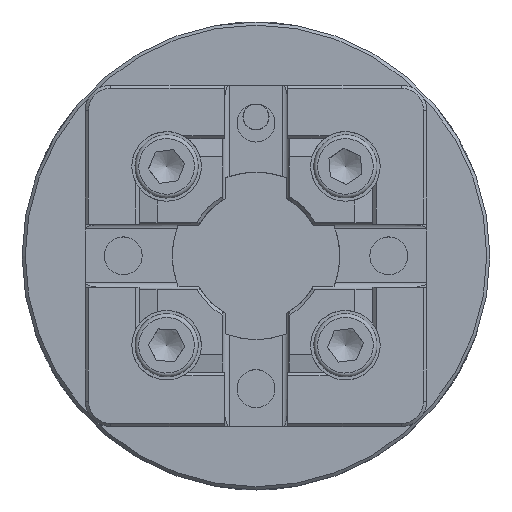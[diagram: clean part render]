
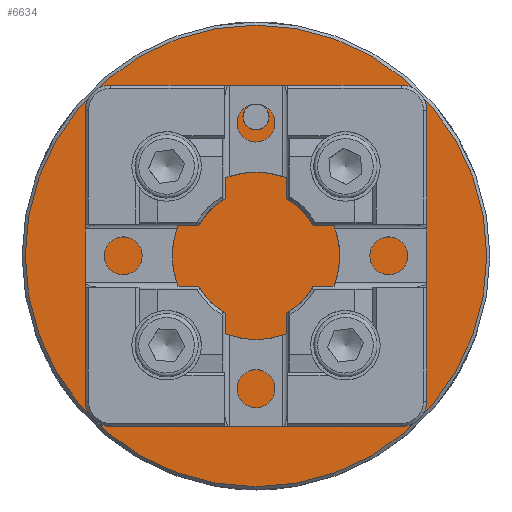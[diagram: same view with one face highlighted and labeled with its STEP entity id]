
A CAD part, top view. The second image highlights one B-rep face of the part: STEP entity #6634.
In plain terms, the highlighted planar face has unit normal (0, 0, 1).
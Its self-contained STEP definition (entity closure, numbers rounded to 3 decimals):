
#190=FACE_BOUND('',#1179,.T.);
#191=FACE_BOUND('',#1180,.T.);
#192=FACE_BOUND('',#1181,.T.);
#193=FACE_BOUND('',#1182,.T.);
#194=FACE_BOUND('',#1183,.T.);
#195=FACE_BOUND('',#1184,.T.);
#196=FACE_BOUND('',#1185,.T.);
#197=FACE_BOUND('',#1186,.T.);
#1179=EDGE_LOOP('',(#5881));
#1180=EDGE_LOOP('',(#5882));
#1181=EDGE_LOOP('',(#5883));
#1182=EDGE_LOOP('',(#5884));
#1183=EDGE_LOOP('',(#5885));
#1184=EDGE_LOOP('',(#5886));
#1185=EDGE_LOOP('',(#5887));
#1186=EDGE_LOOP('',(#5888));
#1491=CIRCLE('',#7191,36.5);
#1492=CIRCLE('',#7193,2.067);
#1493=CIRCLE('',#7194,2.067);
#1494=CIRCLE('',#7195,2.067);
#1495=CIRCLE('',#7196,2.459);
#1496=CIRCLE('',#7197,2.459);
#1497=CIRCLE('',#7198,2.459);
#1498=CIRCLE('',#7199,2.459);
#3284=VERTEX_POINT('',#11461);
#3285=VERTEX_POINT('',#11464);
#3286=VERTEX_POINT('',#11466);
#3287=VERTEX_POINT('',#11468);
#3288=VERTEX_POINT('',#11470);
#3289=VERTEX_POINT('',#11472);
#3290=VERTEX_POINT('',#11474);
#3291=VERTEX_POINT('',#11476);
#4175=EDGE_CURVE('',#3284,#3284,#1491,.T.);
#4176=EDGE_CURVE('',#3285,#3285,#1492,.T.);
#4177=EDGE_CURVE('',#3286,#3286,#1493,.T.);
#4178=EDGE_CURVE('',#3287,#3287,#1494,.T.);
#4179=EDGE_CURVE('',#3288,#3288,#1495,.T.);
#4180=EDGE_CURVE('',#3289,#3289,#1496,.T.);
#4181=EDGE_CURVE('',#3290,#3290,#1497,.T.);
#4182=EDGE_CURVE('',#3291,#3291,#1498,.T.);
#5881=ORIENTED_EDGE('',*,*,#4176,.T.);
#5882=ORIENTED_EDGE('',*,*,#4177,.T.);
#5883=ORIENTED_EDGE('',*,*,#4178,.T.);
#5884=ORIENTED_EDGE('',*,*,#4179,.T.);
#5885=ORIENTED_EDGE('',*,*,#4180,.T.);
#5886=ORIENTED_EDGE('',*,*,#4181,.T.);
#5887=ORIENTED_EDGE('',*,*,#4182,.T.);
#5888=ORIENTED_EDGE('',*,*,#4175,.F.);
#6304=PLANE('',#7192);
#6634=ADVANCED_FACE('',(#190,#191,#192,#193,#194,#195,#196,#197),#6304,
 .T.);
#7191=AXIS2_PLACEMENT_3D('',#11462,#8860,#8861);
#7192=AXIS2_PLACEMENT_3D('',#11463,#8862,#8863);
#7193=AXIS2_PLACEMENT_3D('',#11465,#8864,#8865);
#7194=AXIS2_PLACEMENT_3D('',#11467,#8866,#8867);
#7195=AXIS2_PLACEMENT_3D('',#11469,#8868,#8869);
#7196=AXIS2_PLACEMENT_3D('',#11471,#8870,#8871);
#7197=AXIS2_PLACEMENT_3D('',#11473,#8872,#8873);
#7198=AXIS2_PLACEMENT_3D('',#11475,#8874,#8875);
#7199=AXIS2_PLACEMENT_3D('',#11477,#8876,#8877);
#8860=DIRECTION('center_axis',(0.,0.,-1.));
#8861=DIRECTION('ref_axis',(-1.,0.,0.));
#8862=DIRECTION('center_axis',(0.,0.,1.));
#8863=DIRECTION('ref_axis',(1.,0.,0.));
#8864=DIRECTION('center_axis',(0.,0.,-1.));
#8865=DIRECTION('ref_axis',(1.,0.,0.));
#8866=DIRECTION('center_axis',(0.,0.,-1.));
#8867=DIRECTION('ref_axis',(-0.5,0.866,0.));
#8868=DIRECTION('center_axis',(0.,0.,-1.));
#8869=DIRECTION('ref_axis',(-0.5,-0.866,0.));
#8870=DIRECTION('center_axis',(0.,0.,-1.));
#8871=DIRECTION('ref_axis',(1.,0.,0.));
#8872=DIRECTION('center_axis',(0.,0.,-1.));
#8873=DIRECTION('ref_axis',(0.,1.,0.));
#8874=DIRECTION('center_axis',(0.,0.,-1.));
#8875=DIRECTION('ref_axis',(-1.,0.,0.));
#8876=DIRECTION('center_axis',(0.,0.,-1.));
#8877=DIRECTION('ref_axis',(0.,-1.,0.));
#11461=CARTESIAN_POINT('',(31.434,0.724,12.));
#11462=CARTESIAN_POINT('Origin',(-5.066,0.724,12.));
#11463=CARTESIAN_POINT('Origin',(-5.066,0.724,12.));
#11464=CARTESIAN_POINT('',(-2.999,22.724,12.));
#11465=CARTESIAN_POINT('Origin',(-5.066,22.724,12.));
#11466=CARTESIAN_POINT('',(-25.152,-8.486,12.));
#11467=CARTESIAN_POINT('Origin',(-24.119,-10.276,12.));
#11468=CARTESIAN_POINT('',(12.953,-12.066,12.));
#11469=CARTESIAN_POINT('Origin',(13.986,-10.276,12.));
#11470=CARTESIAN_POINT('',(-16.75,14.866,12.));
#11471=CARTESIAN_POINT('Origin',(-19.208,14.866,12.));
#11472=CARTESIAN_POINT('',(-19.208,-10.96,12.));
#11473=CARTESIAN_POINT('Origin',(-19.208,-13.418,12.));
#11474=CARTESIAN_POINT('',(6.618,-13.418,12.));
#11475=CARTESIAN_POINT('Origin',(9.076,-13.418,12.));
#11476=CARTESIAN_POINT('',(9.076,12.407,12.));
#11477=CARTESIAN_POINT('Origin',(9.076,14.866,12.));
